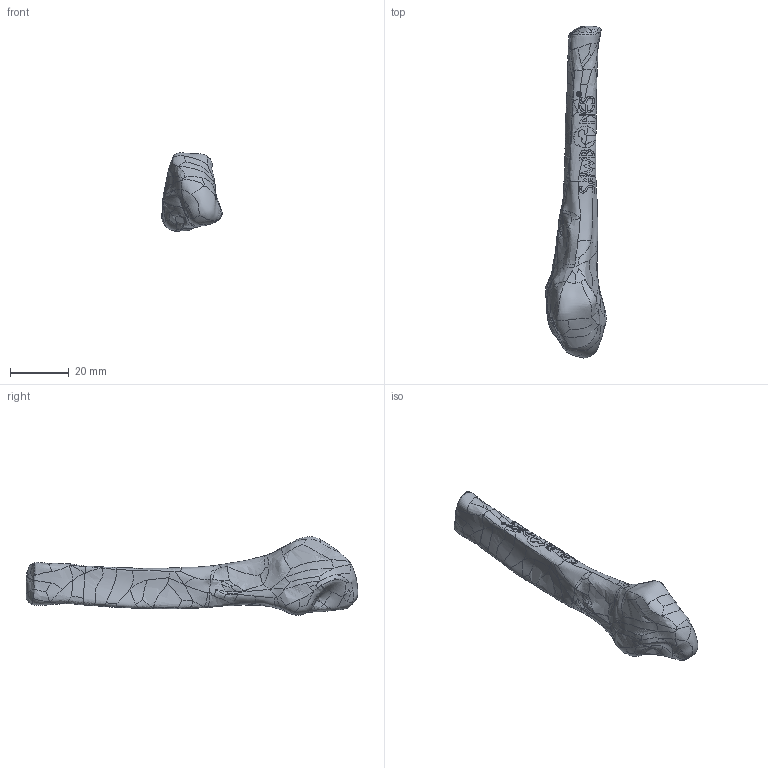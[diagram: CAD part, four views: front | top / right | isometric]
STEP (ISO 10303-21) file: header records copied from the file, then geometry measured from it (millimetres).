
FILE_DESCRIPTION (( 'STEP AP203' ), '1' );
FILE_NAME ('3427.STEP', '2025-06-16T14:17:40', ( '' ), ( '' ), 'SwSTEP 2.0', 'SolidWorks 2024', '' );
FILE_SCHEMA (( 'CONFIG_CONTROL_DESIGN' ));
Products named in the file (1): 3427
Bounding box: 20.62 x 113 x 26.79 mm (x, y, z)
Surface area: 5544.3 mm2 (no closed solid volume)
Topology: 0 solids, 4 shells, 462 faces, 1206 edges, 751 vertices
Faces by surface type: bspline 459, plane 3
Entity records: 649238 total; most frequent: CARTESIAN_POINT 641726, ORIENTED_EDGE 2401, EDGE_CURVE 1206, B_SPLINE_CURVE_WITH_KNOTS 1206, VERTEX_POINT 751, EDGE_LOOP 464, FACE_OUTER_BOUND 462, ADVANCED_FACE 462
